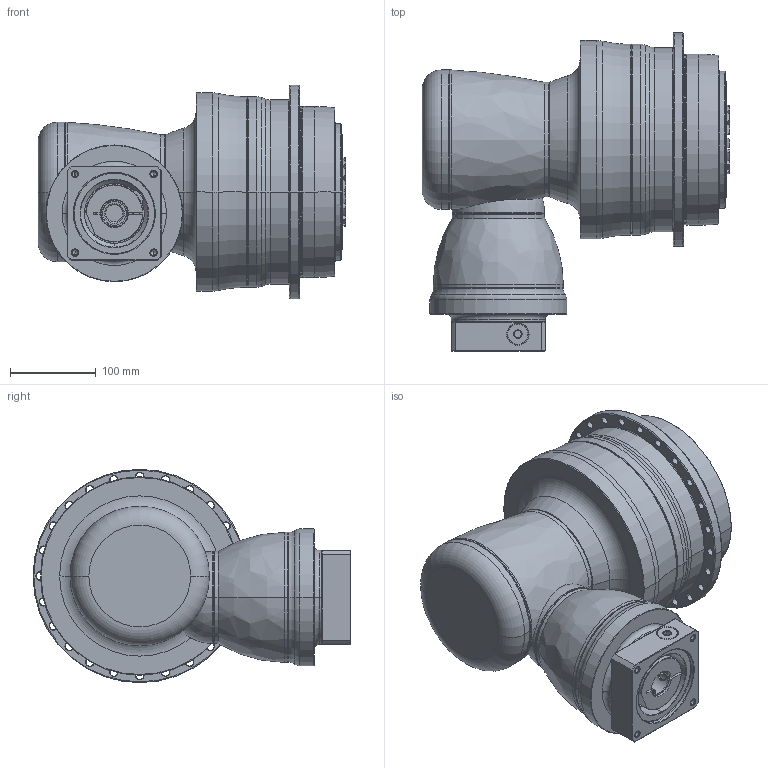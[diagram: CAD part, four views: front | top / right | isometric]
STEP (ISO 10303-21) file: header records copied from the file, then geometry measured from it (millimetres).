
FILE_DESCRIPTION((''),'2;1');
FILE_NAME('APCK200_3ST_28-P0409610201_ASM','2018-05-14T',('d01226'),(''),'PRO/ENGINEER BY PARAMETRIC TECHNOLOGY CORPORATION, 2008410','PRO/ENGINEER BY PARAMETRIC TECHNOLOGY CORPORATION, 2008410','');
FILE_SCHEMA(('CONFIG_CONTROL_DESIGN'));
Length unit declared in the file: millimetre
Products named in the file (13): P1008500002; P1832600001; P0278601003; P0359660103; P1211600001; P1315500001; P1007501001; P1318501101; P0409610201; P0503600010; P0912551001; 21711418017; APCK200_3ST_28-P0409610201_ASM
Assembly tree (12 placements, depth 2):
  APCK200_3ST_28-P0409610201_ASM
    P1008500002
    P1832600001
    P0278601003
    P0359660103
    P1211600001
    P1315500001
    P1007501001
    P1318501101
    P0409610201
    P0503600010
    P0912551001
    21711418017
Bounding box: 359.6 x 371.75 x 249.5 mm (x, y, z)
Volume: 12235613.1 mm3; surface area: 889703.4 mm2
Topology: 13 solids, 23 shells, 704 faces, 1655 edges, 1006 vertices
Faces by surface type: cone 219, cylinder 219, plane 128, torus 115, bspline 21, sphere 2
Entity records: 26032 total; most frequent: CARTESIAN_POINT 9319, DIRECTION 3764, ORIENTED_EDGE 3240, AXIS2_PLACEMENT_3D 1646, EDGE_CURVE 1641, VERTEX_POINT 1006, CIRCLE 928, EDGE_LOOP 811
